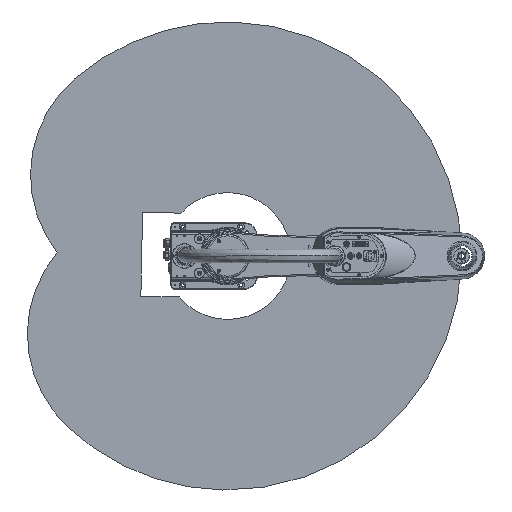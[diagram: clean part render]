
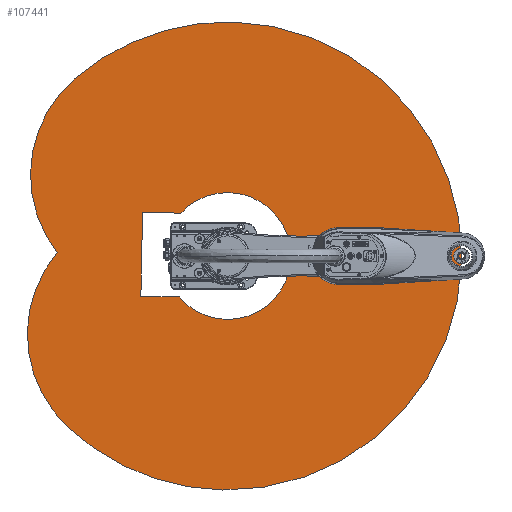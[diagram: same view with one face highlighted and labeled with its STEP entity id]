
A CAD part, left-side view. The second image highlights one B-rep face of the part: STEP entity #107441.
In plain terms, the highlighted planar face has unit normal (-1, 0, 0) as drawn and (0, -1, 0) by its records, which use the part's own axes.
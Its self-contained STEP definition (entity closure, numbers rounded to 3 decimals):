
#622 = FACE_BOUND ( 'NONE', #90432, .T. ) ;
#1201 = CIRCLE ( 'NONE', #67797, 600. ) ;
#3451 = DIRECTION ( 'NONE',  ( 0., 1., 0. ) ) ;
#5409 = EDGE_CURVE ( 'NONE', #111183, #26487, #118816, .T. ) ;
#8196 = EDGE_CURVE ( 'NONE', #119521, #120524, #101808, .T. ) ;
#9129 = VERTEX_POINT ( 'NONE', #47640 ) ;
#9378 = CARTESIAN_POINT ( 'NONE',  ( 0., 0., -600. ) ) ;
#10396 = EDGE_CURVE ( 'NONE', #26487, #39839, #26096, .T. ) ;
#13160 = DIRECTION ( 'NONE',  ( 0., 1., 0. ) ) ;
#13269 = CARTESIAN_POINT ( 'NONE',  ( 0., 0., 0. ) ) ;
#13446 = DIRECTION ( 'NONE',  ( 0., 1., 0. ) ) ;
#13960 = DIRECTION ( 'NONE',  ( 0., 0., -1. ) ) ;
#16925 = DIRECTION ( 'NONE',  ( 0., 0., -1. ) ) ;
#18401 = ORIENTED_EDGE ( 'NONE', *, *, #95698, .F. ) ;
#20347 = ORIENTED_EDGE ( 'NONE', *, *, #105327, .F. ) ;
#21090 = VERTEX_POINT ( 'NONE', #114833 ) ;
#22660 = DIRECTION ( 'NONE',  ( 0., 0., 1. ) ) ;
#22735 = ORIENTED_EDGE ( 'NONE', *, *, #10396, .T. ) ;
#24460 = CARTESIAN_POINT ( 'NONE',  ( 0., 0., 0. ) ) ;
#26096 = LINE ( 'NONE', #62874, #117060 ) ;
#26487 = VERTEX_POINT ( 'NONE', #68291 ) ;
#26763 = CIRCLE ( 'NONE', #36570, 325. ) ;
#27010 = AXIS2_PLACEMENT_3D ( 'NONE', #56278, #38505, #85065 ) ;
#27277 = CARTESIAN_POINT ( 'NONE',  ( 401.478, 0., 445.887 ) ) ;
#28940 = AXIS2_PLACEMENT_3D ( 'NONE', #97130, #13160, #50547 ) ;
#29756 = VERTEX_POINT ( 'NONE', #39183 ) ;
#32261 = DIRECTION ( 'NONE',  ( 0., 0., 1. ) ) ;
#32885 = ORIENTED_EDGE ( 'NONE', *, *, #93692, .F. ) ;
#32966 = CARTESIAN_POINT ( 'NONE',  ( 184.011, 0., 204.365 ) ) ;
#36570 = AXIS2_PLACEMENT_3D ( 'NONE', #72541, #110533, #92123 ) ;
#37531 = DIRECTION ( 'NONE',  ( -1., 0., 0. ) ) ;
#37731 = ORIENTED_EDGE ( 'NONE', *, *, #95612, .F. ) ;
#38505 = DIRECTION ( 'NONE',  ( 0., 1., 0. ) ) ;
#39183 = CARTESIAN_POINT ( 'NONE',  ( 401.478, 0., -445.887 ) ) ;
#39839 = VERTEX_POINT ( 'NONE', #86230 ) ;
#39971 = AXIS2_PLACEMENT_3D ( 'NONE', #24460, #13446, #50852 ) ;
#40211 = VERTEX_POINT ( 'NONE', #27277 ) ;
#46641 = DIRECTION ( 'NONE',  ( 0., 0., -1. ) ) ;
#47640 = CARTESIAN_POINT ( 'NONE',  ( 436.716, 0., 0. ) ) ;
#48459 = CARTESIAN_POINT ( 'NONE',  ( 92.005, 0., 102.182 ) ) ;
#49064 = DIRECTION ( 'NONE',  ( 0., -1., 0. ) ) ;
#49890 = DIRECTION ( 'NONE',  ( 0., 0., 1. ) ) ;
#50479 = CARTESIAN_POINT ( 'NONE',  ( 0., 0., 0. ) ) ;
#50547 = DIRECTION ( 'NONE',  ( 0., 0., 1. ) ) ;
#50852 = DIRECTION ( 'NONE',  ( 0., 0., 1. ) ) ;
#52649 = CARTESIAN_POINT ( 'NONE',  ( 0., 0., 162.6 ) ) ;
#53231 = CARTESIAN_POINT ( 'NONE',  ( 220., 0., 107.5 ) ) ;
#55928 = CARTESIAN_POINT ( 'NONE',  ( 121.994, 0., -107.5 ) ) ;
#56278 = CARTESIAN_POINT ( 'NONE',  ( 0., 0., 0. ) ) ;
#56738 = AXIS2_PLACEMENT_3D ( 'NONE', #50479, #114862, #49890 ) ;
#58042 = EDGE_CURVE ( 'NONE', #95516, #111183, #79284, .T. ) ;
#62248 = CIRCLE ( 'NONE', #28940, 600. ) ;
#62874 = CARTESIAN_POINT ( 'NONE',  ( 220., 0., -107.5 ) ) ;
#63684 = CIRCLE ( 'NONE', #75425, 325. ) ;
#64506 = EDGE_LOOP ( 'NONE', ( #20347, #18401, #32885, #37731, #88755 ) ) ;
#67312 = VERTEX_POINT ( 'NONE', #9378 ) ;
#67797 = AXIS2_PLACEMENT_3D ( 'NONE', #13269, #3451, #32261 ) ;
#68291 = CARTESIAN_POINT ( 'NONE',  ( 220., 0., 107.5 ) ) ;
#68629 = CARTESIAN_POINT ( 'NONE',  ( 0., 0., 0. ) ) ;
#71513 = AXIS2_PLACEMENT_3D ( 'NONE', #68629, #97413, #22660 ) ;
#72541 = CARTESIAN_POINT ( 'NONE',  ( 184.011, 0., -204.365 ) ) ;
#72738 = EDGE_CURVE ( 'NONE', #39839, #119521, #75525, .T. ) ;
#75425 = AXIS2_PLACEMENT_3D ( 'NONE', #32966, #97329, #13960 ) ;
#75525 = LINE ( 'NONE', #55928, #107630 ) ;
#79284 = CIRCLE ( 'NONE', #71513, 162.6 ) ;
#80285 = EDGE_CURVE ( 'NONE', #120524, #95516, #116234, .T. ) ;
#85065 = DIRECTION ( 'NONE',  ( 0., 0., 1. ) ) ;
#85695 = ORIENTED_EDGE ( 'NONE', *, *, #8196, .T. ) ;
#86230 = CARTESIAN_POINT ( 'NONE',  ( 220., 0., -107.5 ) ) ;
#88755 = ORIENTED_EDGE ( 'NONE', *, *, #94242, .F. ) ;
#90432 = EDGE_LOOP ( 'NONE', ( #100628, #85695, #96602, #104733, #110925, #22735 ) ) ;
#92123 = DIRECTION ( 'NONE',  ( 0., 0., 1. ) ) ;
#93692 = EDGE_CURVE ( 'NONE', #67312, #21090, #1201, .T. ) ;
#94089 = CARTESIAN_POINT ( 'NONE',  ( 0., 0., -162.6 ) ) ;
#94242 = EDGE_CURVE ( 'NONE', #9129, #29756, #26763, .T. ) ;
#95516 = VERTEX_POINT ( 'NONE', #52649 ) ;
#95612 = EDGE_CURVE ( 'NONE', #29756, #67312, #118968, .T. ) ;
#95698 = EDGE_CURVE ( 'NONE', #21090, #40211, #62248, .T. ) ;
#96602 = ORIENTED_EDGE ( 'NONE', *, *, #80285, .T. ) ;
#97130 = CARTESIAN_POINT ( 'NONE',  ( 0., 0., 0. ) ) ;
#97329 = DIRECTION ( 'NONE',  ( 0., 1., 0. ) ) ;
#97413 = DIRECTION ( 'NONE',  ( 0., 1., 0. ) ) ;
#100628 = ORIENTED_EDGE ( 'NONE', *, *, #72738, .T. ) ;
#101808 = CIRCLE ( 'NONE', #56738, 162.6 ) ;
#102410 = PLANE ( 'NONE',  #110955 ) ;
#103060 = CARTESIAN_POINT ( 'NONE',  ( 121.994, 0., -107.5 ) ) ;
#104733 = ORIENTED_EDGE ( 'NONE', *, *, #58042, .T. ) ;
#104823 = FACE_OUTER_BOUND ( 'NONE', #64506, .T. ) ;
#105327 = EDGE_CURVE ( 'NONE', #40211, #9129, #63684, .T. ) ;
#107441 = ADVANCED_FACE ( 'NONE', ( #104823, #622 ), #102410, .T. ) ;
#107630 = VECTOR ( 'NONE', #37531, 1000. ) ;
#110533 = DIRECTION ( 'NONE',  ( 0., 1., 0. ) ) ;
#110925 = ORIENTED_EDGE ( 'NONE', *, *, #5409, .T. ) ;
#110955 = AXIS2_PLACEMENT_3D ( 'NONE', #48459, #49064, #46641 ) ;
#111183 = VERTEX_POINT ( 'NONE', #118953 ) ;
#113637 = VECTOR ( 'NONE', #120005, 1000. ) ;
#114833 = CARTESIAN_POINT ( 'NONE',  ( 0., 0., 600. ) ) ;
#114862 = DIRECTION ( 'NONE',  ( 0., 1., 0. ) ) ;
#116234 = CIRCLE ( 'NONE', #39971, 162.6 ) ;
#117060 = VECTOR ( 'NONE', #16925, 1000. ) ;
#118816 = LINE ( 'NONE', #53231, #113637 ) ;
#118953 = CARTESIAN_POINT ( 'NONE',  ( 121.994, 0., 107.5 ) ) ;
#118968 = CIRCLE ( 'NONE', #27010, 600. ) ;
#119521 = VERTEX_POINT ( 'NONE', #103060 ) ;
#120005 = DIRECTION ( 'NONE',  ( 1., 0., 0. ) ) ;
#120524 = VERTEX_POINT ( 'NONE', #94089 ) ;
